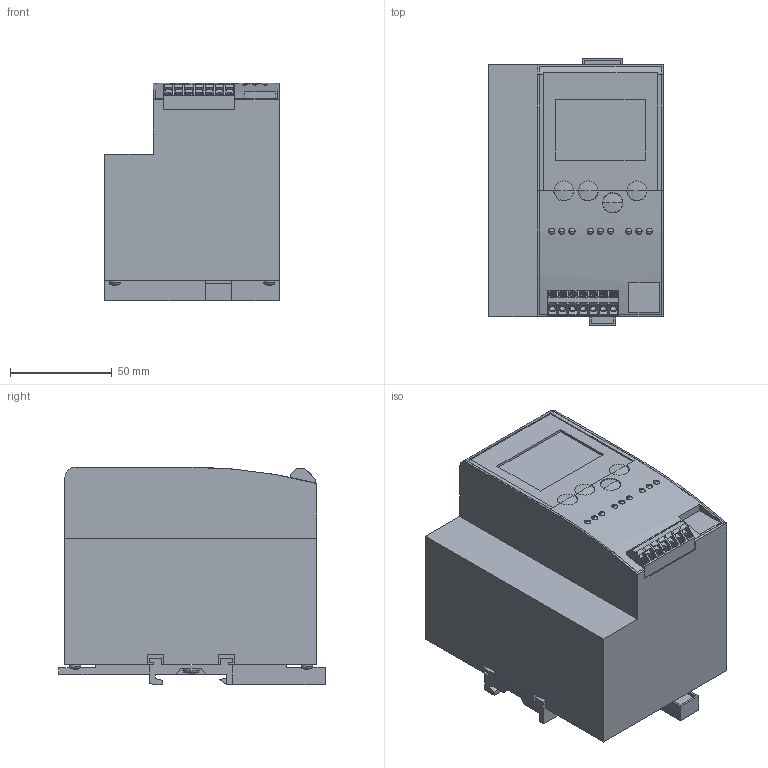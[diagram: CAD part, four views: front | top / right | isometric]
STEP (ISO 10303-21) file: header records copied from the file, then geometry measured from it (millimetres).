
FILE_DESCRIPTION( ( '' ), '1' );
FILE_NAME( '//partserver002.servicenet/client_exchange/iodir/jobs/output/wkb6673128_no0/STEP/ac1305_2_03.stp', '2007-03-28T12:18:40', ( '' ), ( '' ), ' ', ' ', ' ' );
FILE_SCHEMA( ( 'CONFIG_CONTROL_DESIGN' ) );
Length unit declared in the file: millimetre
Products named in the file (1): 1
Bounding box: 86 x 131 x 107 mm (x, y, z)
Volume: 928542.4 mm3; surface area: 112116.2 mm2
Topology: 1 solids, 1 shells, 809 faces, 2159 edges, 1389 vertices
Faces by surface type: plane 527, cylinder 164, torus 78, sphere 26, cone 14
Entity records: 26585 total; most frequent: CARTESIAN_POINT 6477, ORIENTED_EDGE 4266, DIRECTION 4049, EDGE_CURVE 2133, VERTEX_POINT 1389, AXIS2_PLACEMENT_3D 1365, LINE 1319, VECTOR 1319
